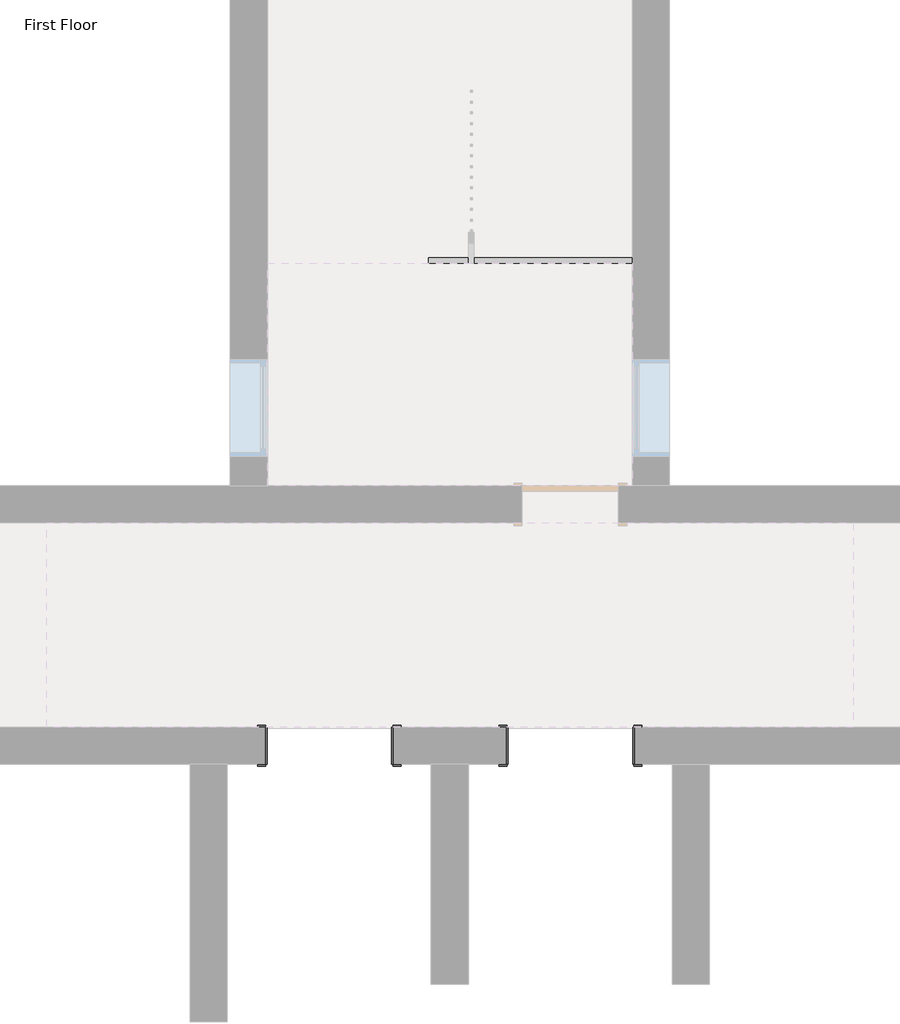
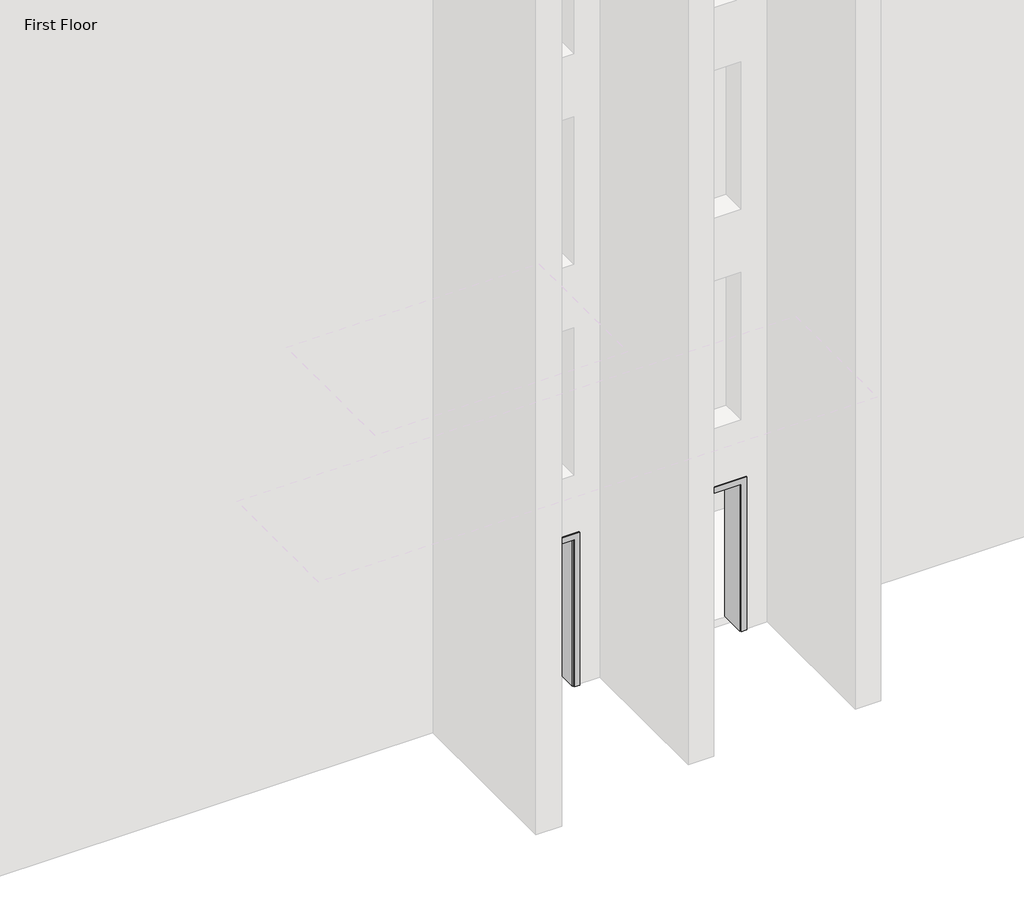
# One storey, part 5 of 5: 2 proxies, 1 railing.
"""IFC4 building model written with IfcOpenShell, lengths in millimetres."""

from ifc_helpers import new_model, si_unit, origin, place, context, project, spatial, transform, mapped, element, save
from components import proxy_c3589814, handrail_rectangular_88550297

model = new_model("IFC4")

# Units and contexts
model_context = context("Model", 3, world=origin())
ifc_project = project(units=[si_unit("LENGTHUNIT", "METRE", prefix="MILLI")], contexts=[model_context])

# Site, building, storey
site = spatial("IfcSite", under=ifc_project)
building = spatial("IfcBuilding", under=site)
storey = spatial("IfcBuildingStorey", under=building, Name="First Floor", Elevation=0.0)

# Proxies
placement = place(None, origin())
proxy_shape = proxy_c3589814(model_context)
element("IfcBuildingElementProxy", 1, Name="Opening-Cased : 48\" x 84\"", ObjectType="Opening-Cased : 48\" x 84\"", at=placement, inside=storey, context=model_context, shape_type="MappedRepresentation", body=[
    mapped(proxy_shape, transform((-7396.8036255, 2429.9758812, 0.0), x_axis=(-1.0, 0.0, 0.0), y_axis=(0.0, -1.0, 0.0), z_axis=(0.0, 0.0, 1.0))),
])
element("IfcBuildingElementProxy", 2, Name="Opening-Cased : 48\" x 84\"", ObjectType="Opening-Cased : 48\" x 84\"", at=placement, inside=storey, context=model_context, shape_type="MappedRepresentation", body=[
    mapped(proxy_shape, transform((-5110.8036255, 2429.9758812, 0.0), x_axis=(-1.0, 0.0, 0.0), y_axis=(0.0, -1.0, 0.0), z_axis=(0.0, 0.0, 1.0))),
])

# Railing
handrail_rectangular_shape = handrail_rectangular_88550297(model_context)
element("IfcRailing", 3, ObjectType="Handrail - Rectangular", at=placement, inside=storey, context=model_context, shape_type="MappedRepresentation", body=[
    mapped(handrail_rectangular_shape, transform((0.0, 0.0, 0.0), x_axis=(1.0, 0.0, 0.0), y_axis=(0.0, 1.0, 0.0), z_axis=(0.0, 0.0, 1.0))),
])

save(model, "model.ifc")
